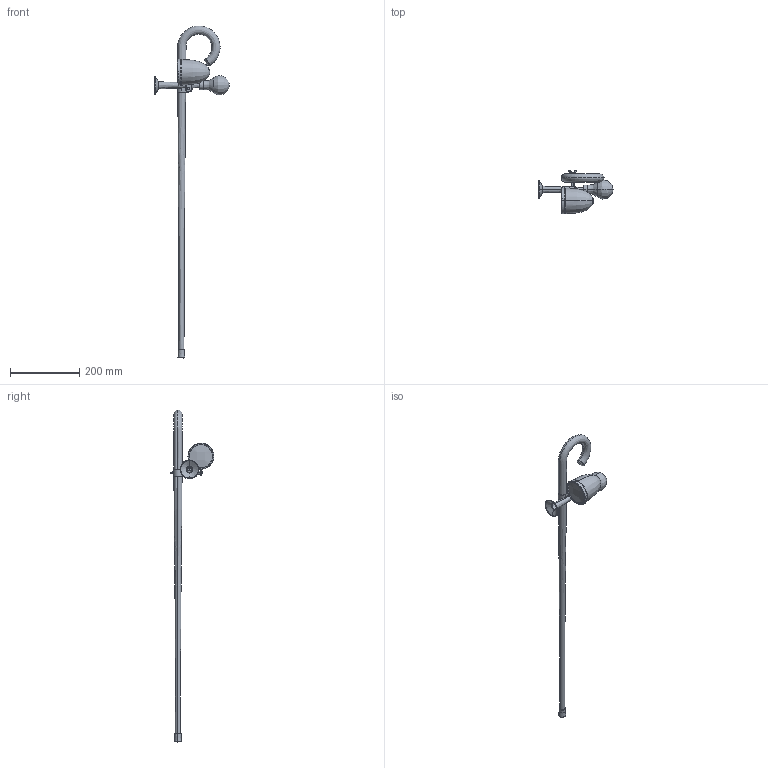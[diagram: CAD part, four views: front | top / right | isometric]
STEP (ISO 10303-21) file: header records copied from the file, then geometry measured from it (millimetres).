
FILE_DESCRIPTION(/* description */ (''),/* implementation_level */ '2;1');
FILE_NAME(/* name */ '001',/* time_stamp */ '2014-07-16T11:22:24+02:00',/* author */ (''),/* organization */ (''),/* preprocessor_version */ 'ST-DEVELOPER v15',/* originating_system */ '',/* authorisation */ '');
FILE_SCHEMA (('AUTOMOTIVE_DESIGN'));
Length unit declared in the file: millimetre
Products named in the file (1): Document
Bounding box: 214.89 x 126.49 x 959.94 mm (x, y, z)
Volume: 16432.3 mm3; surface area: 154960.4 mm2
Topology: 11 solids, 25 shells, 176 faces, 402 edges, 245 vertices
Faces by surface type: bspline 127, plane 49
Entity records: 14683 total; most frequent: CARTESIAN_POINT 12254, ORIENTED_EDGE 720, EDGE_CURVE 389, VERTEX_POINT 235, B_SPLINE_CURVE_WITH_KNOTS 200, EDGE_LOOP 193, ADVANCED_FACE 176, FACE_OUTER_BOUND 176
